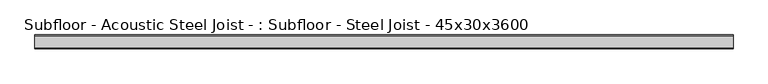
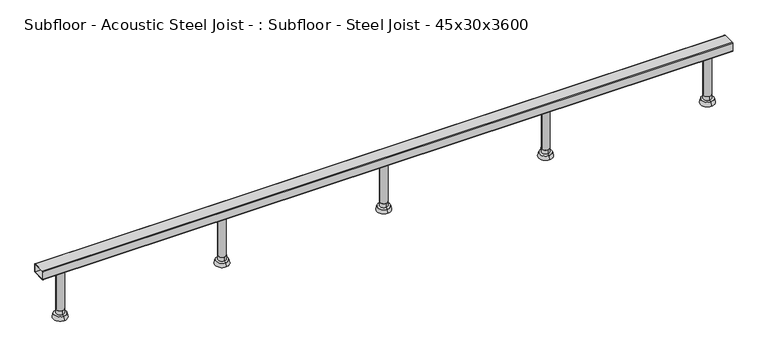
"""IFC4 building model written with IfcOpenShell, lengths in millimetres: beam geometry, Subfloor - Acoustic Steel Joist - : Subfloor - Steel Joist - 45x30x3600."""

from ifc_helpers import new_model, si_unit, point, frame, frame_2d, origin, place, context, project, spatial, polyline, circle_curve, trimmed, segment, composite_curve, outline, extrude, source, transform, mapped, element, save
from ifc_brep_helpers import plane_surface, cylinder_surface, revolved_surface, advanced_brep


def subfloor_acoustic_steel_joist_subfloor_steel_joist_d2b55755(model_context):
    return source(origin(), model_context, "Body", "SolidModel", [
        extrude(outline(composite_curve([segment(trimmed(circle_curve(frame_2d((461.875, 0.0)), 12.5043167), [point((449.3706833, 0.0))], [point((474.3793167, 0.0))], False, "CARTESIAN"), True, "CONTINUOUS"), segment(trimmed(circle_curve(frame_2d((461.875, 0.0)), 12.5043167), [point((474.3793167, 0.0))], [point((449.3706833, 0.0))], False, "CARTESIAN"), True, "CONTINUOUS")], self_intersect=False)), frame((0.0, 0.0, -151.4999995), z_axis=(0.0, 0.0, 1.0), x_axis=(1.0, 0.0, 0.0)), (0.0, 0.0, 1.0), 136.4999995),
        advanced_brep(
        [(461.875, 0.0, -180.0), (461.875, -22.5, -180.0), (461.875, 22.5, -180.0), (461.875, 12.5043167, -151.4999995), (461.875, -12.5043167, -151.4999995), (461.875, 0.0, -151.4999995), (461.875, 19.5414562, -167.356555), (461.875, -19.5414562, -167.356555), (461.875, -12.5043167, -166.0618465), (461.875, 12.5043167, -166.0618465)],
        [
            (0, 1),
            (1, 2, circle_curve(frame((461.875, 0.0, -180.0), z_axis=(0.0, 0.0, -1.0), x_axis=(0.0, -1.0, 0.0)), 22.5)),
            (2, 0),
            (2, 1, circle_curve(frame((461.875, 0.0, -180.0), z_axis=(0.0, 0.0, -1.0), x_axis=(0.0, -1.0, 0.0)), 22.5)),
            (3, 4, circle_curve(frame((461.875, 0.0, -151.4999995), z_axis=(0.0, 0.0, 1.0), x_axis=(0.0, -1.0, 0.0)), 12.5043167)),
            (4, 5),
            (5, 3),
            (4, 3, circle_curve(frame((461.875, 0.0, -151.4999995), z_axis=(0.0, 0.0, 1.0), x_axis=(0.0, -1.0, 0.0)), 12.5043167)),
            (6, 7, circle_curve(frame((461.875, 0.0, -167.356555), z_axis=(0.0, 0.0, 1.0), x_axis=(0.0, -1.0, 0.0)), 19.5414562)),
            (7, 8),
            (8, 9, circle_curve(frame((461.875, 0.0, -166.0618465), z_axis=(0.0, 0.0, -1.0), x_axis=(0.0, -1.0, 0.0)), 12.5043167)),
            (9, 6),
            (7, 6, circle_curve(frame((461.875, 0.0, -167.356555), z_axis=(0.0, 0.0, 1.0), x_axis=(0.0, -1.0, 0.0)), 19.5414562)),
            (9, 8, circle_curve(frame((461.875, 0.0, -166.0618465), z_axis=(0.0, 0.0, -1.0), x_axis=(0.0, -1.0, 0.0)), 12.5043167)),
            (8, 4),
            (3, 9),
            (1, 7),
            (6, 2),
        ],
        [
            plane_surface(frame((461.875, 0.0, -180.0), z_axis=(0.0, 0.0, -1.0), x_axis=(0.0, -1.0, 0.0))),
            plane_surface(frame((461.875, 0.0, -151.4999995), z_axis=(0.0, 0.0, 1.0), x_axis=(0.0, -1.0, 0.0))),
            revolved_surface(polyline([(461.875, -12.5043167, -166.0618465), (461.875, -19.5414562, -167.356555)]), (461.875, 0.0, -185.6427452), (0.0, 0.0, -1.0)),
            cylinder_surface(frame((461.875, 0.0, -185.6427452), z_axis=(0.0, 0.0, -1.0), x_axis=(0.0, -1.0, 0.0)), 12.5043167),
            revolved_surface(polyline([(461.875, -19.5414562, -167.356555), (461.875, -22.5, -180.0)]), (461.875, 0.0, -185.6427452), (0.0, 0.0, -1.0)),
        ],
        [
            (0, [[1, 2, 3]]),
            (0, [[-3, 4, -1]]),
            (1, [[5, 6, 7]]),
            (1, [[8, -7, -6]]),
            (2, [[9, 10, 11, 12]]),
            (2, [[13, -12, 14, -10]]),
            (3, [[-11, 15, -5, 16]]),
            (3, [[-14, -16, -8, -15]]),
            (4, [[-2, 17, -9, 18]]),
            (4, [[-4, -18, -13, -17]]),
        ],
    ),
        extrude(outline(composite_curve([segment(trimmed(circle_curve(frame_2d((-68.75, 0.0)), 12.5043167), [point((-81.2543167, 0.0))], [point((-56.2456833, 0.0))], False, "CARTESIAN"), True, "CONTINUOUS"), segment(trimmed(circle_curve(frame_2d((-68.75, 0.0)), 12.5043167), [point((-56.2456833, 0.0))], [point((-81.2543167, 0.0))], False, "CARTESIAN"), True, "CONTINUOUS")], self_intersect=False)), frame((0.0, 0.0, -151.4999995), z_axis=(0.0, 0.0, 1.0), x_axis=(1.0, 0.0, 0.0)), (0.0, 0.0, 1.0), 136.4999995),
        advanced_brep(
        [(-68.75, 0.0, -180.0), (-68.75, -22.5, -180.0), (-68.75, 22.5, -180.0), (-68.75, 12.5043167, -151.4999995), (-68.75, -12.5043167, -151.4999995), (-68.75, 0.0, -151.4999995), (-68.75, 19.5414562, -167.356555), (-68.75, -19.5414562, -167.356555), (-68.75, -12.5043167, -166.0618465), (-68.75, 12.5043167, -166.0618465)],
        [
            (0, 1),
            (1, 2, circle_curve(frame((-68.75, 0.0, -180.0), z_axis=(0.0, 0.0, -1.0), x_axis=(0.0, -1.0, 0.0)), 22.5)),
            (2, 0),
            (2, 1, circle_curve(frame((-68.75, 0.0, -180.0), z_axis=(0.0, 0.0, -1.0), x_axis=(0.0, -1.0, 0.0)), 22.5)),
            (3, 4, circle_curve(frame((-68.75, 0.0, -151.4999995), z_axis=(0.0, 0.0, 1.0), x_axis=(0.0, -1.0, 0.0)), 12.5043167)),
            (4, 5),
            (5, 3),
            (4, 3, circle_curve(frame((-68.75, 0.0, -151.4999995), z_axis=(0.0, 0.0, 1.0), x_axis=(0.0, -1.0, 0.0)), 12.5043167)),
            (6, 7, circle_curve(frame((-68.75, 0.0, -167.356555), z_axis=(0.0, 0.0, 1.0), x_axis=(0.0, -1.0, 0.0)), 19.5414562)),
            (7, 8),
            (8, 9, circle_curve(frame((-68.75, 0.0, -166.0618465), z_axis=(0.0, 0.0, -1.0), x_axis=(0.0, -1.0, 0.0)), 12.5043167)),
            (9, 6),
            (7, 6, circle_curve(frame((-68.75, 0.0, -167.356555), z_axis=(0.0, 0.0, 1.0), x_axis=(0.0, -1.0, 0.0)), 19.5414562)),
            (9, 8, circle_curve(frame((-68.75, 0.0, -166.0618465), z_axis=(0.0, 0.0, -1.0), x_axis=(0.0, -1.0, 0.0)), 12.5043167)),
            (8, 4),
            (3, 9),
            (1, 7),
            (6, 2),
        ],
        [
            plane_surface(frame((-68.75, 0.0, -180.0), z_axis=(0.0, 0.0, -1.0), x_axis=(0.0, -1.0, 0.0))),
            plane_surface(frame((-68.75, 0.0, -151.4999995), z_axis=(0.0, 0.0, 1.0), x_axis=(0.0, -1.0, 0.0))),
            revolved_surface(polyline([(-68.75, -12.5043167, -166.0618465), (-68.75, -19.5414562, -167.356555)]), (-68.75, 0.0, -185.6427452), (0.0, 0.0, -1.0)),
            cylinder_surface(frame((-68.75, 0.0, -185.6427452), z_axis=(0.0, 0.0, -1.0), x_axis=(0.0, -1.0, 0.0)), 12.5043167),
            revolved_surface(polyline([(-68.75, -19.5414562, -167.356555), (-68.75, -22.5, -180.0)]), (-68.75, 0.0, -185.6427452), (0.0, 0.0, -1.0)),
        ],
        [
            (0, [[1, 2, 3]]),
            (0, [[-3, 4, -1]]),
            (1, [[5, 6, 7]]),
            (1, [[8, -7, -6]]),
            (2, [[9, 10, 11, 12]]),
            (2, [[13, -12, 14, -10]]),
            (3, [[-11, 15, -5, 16]]),
            (3, [[-14, -16, -8, -15]]),
            (4, [[-2, 17, -9, 18]]),
            (4, [[-4, -18, -13, -17]]),
        ],
    ),
        extrude(outline(composite_curve([segment(trimmed(circle_curve(frame_2d((-599.375, 0.0)), 12.5043167), [point((-611.8793167, 0.0))], [point((-586.8706833, 0.0))], False, "CARTESIAN"), True, "CONTINUOUS"), segment(trimmed(circle_curve(frame_2d((-599.375, 0.0)), 12.5043167), [point((-586.8706833, 0.0))], [point((-611.8793167, 0.0))], False, "CARTESIAN"), True, "CONTINUOUS")], self_intersect=False)), frame((0.0, 0.0, -151.4999995), z_axis=(0.0, 0.0, 1.0), x_axis=(1.0, 0.0, 0.0)), (0.0, 0.0, 1.0), 136.4999995),
        advanced_brep(
        [(-599.375, 0.0, -180.0), (-599.375, -22.5, -180.0), (-599.375, 22.5, -180.0), (-599.375, 12.5043167, -151.4999995), (-599.375, -12.5043167, -151.4999995), (-599.375, 0.0, -151.4999995), (-599.375, 19.5414562, -167.356555), (-599.375, -19.5414562, -167.356555), (-599.375, -12.5043167, -166.0618465), (-599.375, 12.5043167, -166.0618465)],
        [
            (0, 1),
            (1, 2, circle_curve(frame((-599.375, 0.0, -180.0), z_axis=(0.0, 0.0, -1.0), x_axis=(0.0, -1.0, 0.0)), 22.5)),
            (2, 0),
            (2, 1, circle_curve(frame((-599.375, 0.0, -180.0), z_axis=(0.0, 0.0, -1.0), x_axis=(0.0, -1.0, 0.0)), 22.5)),
            (3, 4, circle_curve(frame((-599.375, 0.0, -151.4999995), z_axis=(0.0, 0.0, 1.0), x_axis=(0.0, -1.0, 0.0)), 12.5043167)),
            (4, 5),
            (5, 3),
            (4, 3, circle_curve(frame((-599.375, 0.0, -151.4999995), z_axis=(0.0, 0.0, 1.0), x_axis=(0.0, -1.0, 0.0)), 12.5043167)),
            (6, 7, circle_curve(frame((-599.375, 0.0, -167.356555), z_axis=(0.0, 0.0, 1.0), x_axis=(0.0, -1.0, 0.0)), 19.5414562)),
            (7, 8),
            (8, 9, circle_curve(frame((-599.375, 0.0, -166.0618465), z_axis=(0.0, 0.0, -1.0), x_axis=(0.0, -1.0, 0.0)), 12.5043167)),
            (9, 6),
            (7, 6, circle_curve(frame((-599.375, 0.0, -167.356555), z_axis=(0.0, 0.0, 1.0), x_axis=(0.0, -1.0, 0.0)), 19.5414562)),
            (9, 8, circle_curve(frame((-599.375, 0.0, -166.0618465), z_axis=(0.0, 0.0, -1.0), x_axis=(0.0, -1.0, 0.0)), 12.5043167)),
            (8, 4),
            (3, 9),
            (1, 7),
            (6, 2),
        ],
        [
            plane_surface(frame((-599.375, 0.0, -180.0), z_axis=(0.0, 0.0, -1.0), x_axis=(0.0, -1.0, 0.0))),
            plane_surface(frame((-599.375, 0.0, -151.4999995), z_axis=(0.0, 0.0, 1.0), x_axis=(0.0, -1.0, 0.0))),
            revolved_surface(polyline([(-599.375, -12.5043167, -166.0618465), (-599.375, -19.5414562, -167.356555)]), (-599.375, 0.0, -185.6427452), (0.0, 0.0, -1.0)),
            cylinder_surface(frame((-599.375, 0.0, -185.6427452), z_axis=(0.0, 0.0, -1.0), x_axis=(0.0, -1.0, 0.0)), 12.5043167),
            revolved_surface(polyline([(-599.375, -19.5414562, -167.356555), (-599.375, -22.5, -180.0)]), (-599.375, 0.0, -185.6427452), (0.0, 0.0, -1.0)),
        ],
        [
            (0, [[1, 2, 3]]),
            (0, [[-3, 4, -1]]),
            (1, [[5, 6, 7]]),
            (1, [[8, -7, -6]]),
            (2, [[9, 10, 11, 12]]),
            (2, [[13, -12, 14, -10]]),
            (3, [[-11, 15, -5, 16]]),
            (3, [[-14, -16, -8, -15]]),
            (4, [[-2, 17, -9, 18]]),
            (4, [[-4, -18, -13, -17]]),
        ],
    ),
        extrude(outline(composite_curve([segment(trimmed(circle_curve(frame_2d((992.5, 0.0)), 12.5043167), [point((979.9956833, 0.0))], [point((1005.0043167, 0.0))], False, "CARTESIAN"), True, "CONTINUOUS"), segment(trimmed(circle_curve(frame_2d((992.5, 0.0)), 12.5043167), [point((1005.0043167, 0.0))], [point((979.9956833, 0.0))], False, "CARTESIAN"), True, "CONTINUOUS")], self_intersect=False)), frame((0.0, 0.0, -151.4999995), z_axis=(0.0, 0.0, 1.0), x_axis=(1.0, 0.0, 0.0)), (0.0, 0.0, 1.0), 136.4999995),
        advanced_brep(
        [(992.5, 0.0, -180.0), (992.5, -22.5, -180.0), (992.5, 22.5, -180.0), (992.5, 12.5043167, -151.4999995), (992.5, -12.5043167, -151.4999995), (992.5, 0.0, -151.4999995), (992.5, 19.5414562, -167.356555), (992.5, -19.5414562, -167.356555), (992.5, -12.5043167, -166.0618465), (992.5, 12.5043167, -166.0618465)],
        [
            (0, 1),
            (1, 2, circle_curve(frame((992.5, 0.0, -180.0), z_axis=(0.0, 0.0, -1.0), x_axis=(0.0, -1.0, 0.0)), 22.5)),
            (2, 0),
            (2, 1, circle_curve(frame((992.5, 0.0, -180.0), z_axis=(0.0, 0.0, -1.0), x_axis=(0.0, -1.0, 0.0)), 22.5)),
            (3, 4, circle_curve(frame((992.5, 0.0, -151.4999995), z_axis=(0.0, 0.0, 1.0), x_axis=(0.0, -1.0, 0.0)), 12.5043167)),
            (4, 5),
            (5, 3),
            (4, 3, circle_curve(frame((992.5, 0.0, -151.4999995), z_axis=(0.0, 0.0, 1.0), x_axis=(0.0, -1.0, 0.0)), 12.5043167)),
            (6, 7, circle_curve(frame((992.5, 0.0, -167.356555), z_axis=(0.0, 0.0, 1.0), x_axis=(0.0, -1.0, 0.0)), 19.5414562)),
            (7, 8),
            (8, 9, circle_curve(frame((992.5, 0.0, -166.0618465), z_axis=(0.0, 0.0, -1.0), x_axis=(0.0, -1.0, 0.0)), 12.5043167)),
            (9, 6),
            (7, 6, circle_curve(frame((992.5, 0.0, -167.356555), z_axis=(0.0, 0.0, 1.0), x_axis=(0.0, -1.0, 0.0)), 19.5414562)),
            (9, 8, circle_curve(frame((992.5, 0.0, -166.0618465), z_axis=(0.0, 0.0, -1.0), x_axis=(0.0, -1.0, 0.0)), 12.5043167)),
            (8, 4),
            (3, 9),
            (1, 7),
            (6, 2),
        ],
        [
            plane_surface(frame((992.5, 0.0, -180.0), z_axis=(0.0, 0.0, -1.0), x_axis=(0.0, -1.0, 0.0))),
            plane_surface(frame((992.5, 0.0, -151.4999995), z_axis=(0.0, 0.0, 1.0), x_axis=(0.0, -1.0, 0.0))),
            revolved_surface(polyline([(992.5, -12.5043167, -166.0618465), (992.5, -19.5414562, -167.356555)]), (992.5, 0.0, -185.6427452), (0.0, 0.0, -1.0)),
            cylinder_surface(frame((992.5, 0.0, -185.6427452), z_axis=(0.0, 0.0, -1.0), x_axis=(0.0, -1.0, 0.0)), 12.5043167),
            revolved_surface(polyline([(992.5, -19.5414562, -167.356555), (992.5, -22.5, -180.0)]), (992.5, 0.0, -185.6427452), (0.0, 0.0, -1.0)),
        ],
        [
            (0, [[1, 2, 3]]),
            (0, [[-3, 4, -1]]),
            (1, [[5, 6, 7]]),
            (1, [[8, -7, -6]]),
            (2, [[9, 10, 11, 12]]),
            (2, [[13, -12, 14, -10]]),
            (3, [[-11, 15, -5, 16]]),
            (3, [[-14, -16, -8, -15]]),
            (4, [[-2, 17, -9, 18]]),
            (4, [[-4, -18, -13, -17]]),
        ],
    ),
        extrude(outline(composite_curve([segment(trimmed(circle_curve(frame_2d((-1130.0, 0.0)), 12.5043167), [point((-1142.5043167, 0.0))], [point((-1117.4956833, 0.0))], False, "CARTESIAN"), True, "CONTINUOUS"), segment(trimmed(circle_curve(frame_2d((-1130.0, 0.0)), 12.5043167), [point((-1117.4956833, 0.0))], [point((-1142.5043167, 0.0))], False, "CARTESIAN"), True, "CONTINUOUS")], self_intersect=False)), frame((0.0, 0.0, -151.4999995), z_axis=(0.0, 0.0, 1.0), x_axis=(1.0, 0.0, 0.0)), (0.0, 0.0, 1.0), 136.4999995),
        advanced_brep(
        [(-1130.0, 0.0, -180.0), (-1130.0, -22.5, -180.0), (-1130.0, 22.5, -180.0), (-1130.0, 12.5043167, -151.4999995), (-1130.0, -12.5043167, -151.4999995), (-1130.0, 0.0, -151.4999995), (-1130.0, 19.5414562, -167.356555), (-1130.0, -19.5414562, -167.356555), (-1130.0, -12.5043167, -166.0618465), (-1130.0, 12.5043167, -166.0618465)],
        [
            (0, 1),
            (1, 2, circle_curve(frame((-1130.0, 0.0, -180.0), z_axis=(0.0, 0.0, -1.0), x_axis=(0.0, -1.0, 0.0)), 22.5)),
            (2, 0),
            (2, 1, circle_curve(frame((-1130.0, 0.0, -180.0), z_axis=(0.0, 0.0, -1.0), x_axis=(0.0, -1.0, 0.0)), 22.5)),
            (3, 4, circle_curve(frame((-1130.0, 0.0, -151.4999995), z_axis=(0.0, 0.0, 1.0), x_axis=(0.0, -1.0, 0.0)), 12.5043167)),
            (4, 5),
            (5, 3),
            (4, 3, circle_curve(frame((-1130.0, 0.0, -151.4999995), z_axis=(0.0, 0.0, 1.0), x_axis=(0.0, -1.0, 0.0)), 12.5043167)),
            (6, 7, circle_curve(frame((-1130.0, 0.0, -167.356555), z_axis=(0.0, 0.0, 1.0), x_axis=(0.0, -1.0, 0.0)), 19.5414562)),
            (7, 8),
            (8, 9, circle_curve(frame((-1130.0, 0.0, -166.0618465), z_axis=(0.0, 0.0, -1.0), x_axis=(0.0, -1.0, 0.0)), 12.5043167)),
            (9, 6),
            (7, 6, circle_curve(frame((-1130.0, 0.0, -167.356555), z_axis=(0.0, 0.0, 1.0), x_axis=(0.0, -1.0, 0.0)), 19.5414562)),
            (9, 8, circle_curve(frame((-1130.0, 0.0, -166.0618465), z_axis=(0.0, 0.0, -1.0), x_axis=(0.0, -1.0, 0.0)), 12.5043167)),
            (8, 4),
            (3, 9),
            (1, 7),
            (6, 2),
        ],
        [
            plane_surface(frame((-1130.0, 0.0, -180.0), z_axis=(0.0, 0.0, -1.0), x_axis=(0.0, -1.0, 0.0))),
            plane_surface(frame((-1130.0, 0.0, -151.4999995), z_axis=(0.0, 0.0, 1.0), x_axis=(0.0, -1.0, 0.0))),
            revolved_surface(polyline([(-1130.0, -12.5043167, -166.0618465), (-1130.0, -19.5414562, -167.356555)]), (-1130.0, 0.0, -185.6427452), (0.0, 0.0, -1.0)),
            cylinder_surface(frame((-1130.0, 0.0, -185.6427452), z_axis=(0.0, 0.0, -1.0), x_axis=(0.0, -1.0, 0.0)), 12.5043167),
            revolved_surface(polyline([(-1130.0, -19.5414562, -167.356555), (-1130.0, -22.5, -180.0)]), (-1130.0, 0.0, -185.6427452), (0.0, 0.0, -1.0)),
        ],
        [
            (0, [[1, 2, 3]]),
            (0, [[-3, 4, -1]]),
            (1, [[5, 6, 7]]),
            (1, [[8, -7, -6]]),
            (2, [[9, 10, 11, 12]]),
            (2, [[13, -12, 14, -10]]),
            (3, [[-11, 15, -5, 16]]),
            (3, [[-14, -16, -8, -15]]),
            (4, [[-2, 17, -9, 18]]),
            (4, [[-4, -18, -13, -17]]),
        ],
    ),
        extrude(outline(composite_curve([segment(polyline([(-20.5, 15.0), (20.5, 15.0)]), True, "CONTINUOUS"), segment(trimmed(circle_curve(frame_2d((20.5, 13.0)), 2.0), [point((20.5, 15.0))], [point((22.5, 13.0))], False, "CARTESIAN"), True, "CONTINUOUS"), segment(polyline([(22.5, 13.0), (22.5, -13.0)]), True, "CONTINUOUS"), segment(trimmed(circle_curve(frame_2d((20.5, -13.0)), 2.0), [point((22.5, -13.0))], [point((20.5, -15.0))], False, "CARTESIAN"), True, "CONTINUOUS"), segment(polyline([(20.5, -15.0), (-20.5, -15.0)]), True, "CONTINUOUS"), segment(trimmed(circle_curve(frame_2d((-20.5, -13.0)), 2.0), [point((-20.5, -15.0))], [point((-22.5, -13.0))], False, "CARTESIAN"), True, "CONTINUOUS"), segment(polyline([(-22.5, -13.0), (-22.5, 13.0)]), True, "CONTINUOUS"), segment(trimmed(circle_curve(frame_2d((-20.5, 13.0)), 2.0), [point((-22.5, 13.0))], [point((-20.5, 15.0))], False, "CARTESIAN"), True, "CONTINUOUS")], self_intersect=False), holes=[polyline([(-19.5, 12.0), (-19.5, -12.0), (19.5, -12.0), (19.5, 12.0), (-19.5, 12.0)])]), frame((-1200.0, 0.0, 0.0), z_axis=(1.0, 0.0, 0.0), x_axis=(0.0, 1.0, 0.0)), (0.0, 0.0, 1.0), 2262.5),
    ])


if __name__ == "__main__":
    model = new_model("IFC4")
    model_context = context("Model", 3, world=origin())
    ifc_project = project(units=[si_unit("LENGTHUNIT", "METRE", prefix="MILLI")], contexts=[model_context])
    site = spatial("IfcSite", under=ifc_project)
    building = spatial("IfcBuilding", under=site)
    placement = place(None, origin())
    subfloor_acoustic_steel_joist_subfloor_steel_joist_shape = subfloor_acoustic_steel_joist_subfloor_steel_joist_d2b55755(model_context)
    element("IfcBeam", 1, ObjectType="Subfloor - Acoustic Steel Joist - : Subfloor - Steel Joist - 45x30x3600", at=placement, inside=building, context=model_context, shape_type="MappedRepresentation", body=[
        mapped(subfloor_acoustic_steel_joist_subfloor_steel_joist_shape, transform((0.0, 0.0, 0.0), x_axis=(1.0, 0.0, 0.0), y_axis=(0.0, 1.0, 0.0), z_axis=(0.0, 0.0, 1.0))),
    ])
    save(model, "model.ifc")
